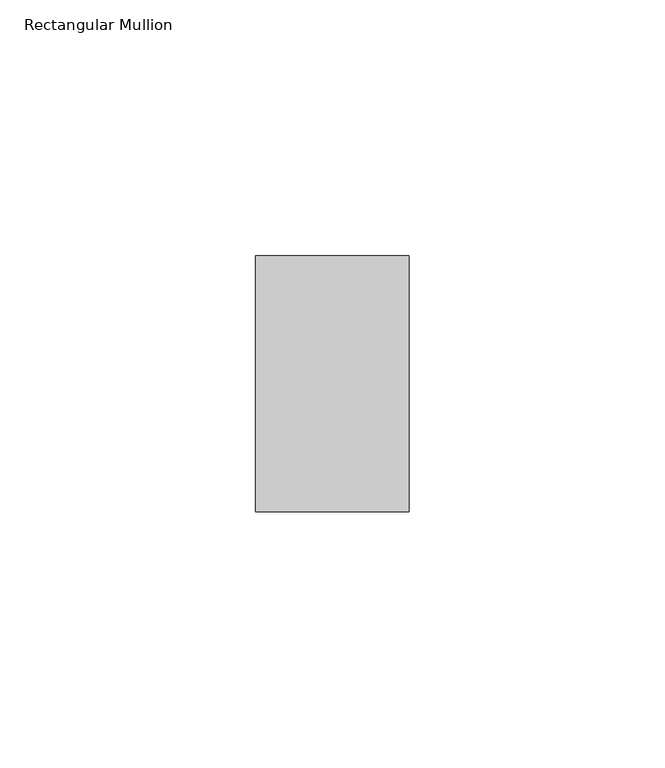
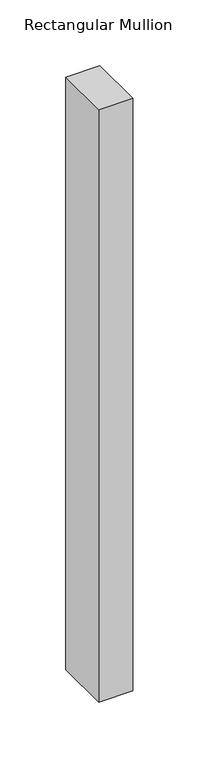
"""IFC4 building model written with IfcOpenShell, lengths in millimetres: member geometry, Rectangular Mullion : ARQ_TV_MULL_50x30mm."""

from ifc_helpers import new_model, si_unit, frame, origin, place, context, project, spatial, polyline, outline, extrude, source, transform, mapped, element, save


def rectangular_mullion_6dd91873(model_context):
    return source(origin(), model_context, "Body", "SweptSolid", [
        extrude(outline(polyline([(0.0, 25.0), (0.0, -25.0), (-30.0, -25.0), (-30.0, 25.0), (0.0, 25.0)])), frame((0.0, 0.0, -550.0), z_axis=(0.0, 0.0, 1.0), x_axis=(1.0, 0.0, 0.0)), (0.0, 0.0, 1.0), 550.0),
    ])


if __name__ == "__main__":
    model = new_model("IFC4")
    model_context = context("Model", 3, world=origin())
    ifc_project = project(units=[si_unit("LENGTHUNIT", "METRE", prefix="MILLI")], contexts=[model_context])
    site = spatial("IfcSite", under=ifc_project)
    building = spatial("IfcBuilding", under=site)
    placement = place(None, origin())
    rectangular_mullion_shape = rectangular_mullion_6dd91873(model_context)
    element("IfcMember", 1, ObjectType="Rectangular Mullion : ARQ_TV_MULL_50x30mm", at=placement, inside=building, context=model_context, shape_type="MappedRepresentation", body=[
        mapped(rectangular_mullion_shape, transform((0.0, 0.0, 0.0), x_axis=(1.0, 0.0, 0.0), y_axis=(0.0, 1.0, 0.0), z_axis=(0.0, 0.0, 1.0))),
    ])
    save(model, "model.ifc")
